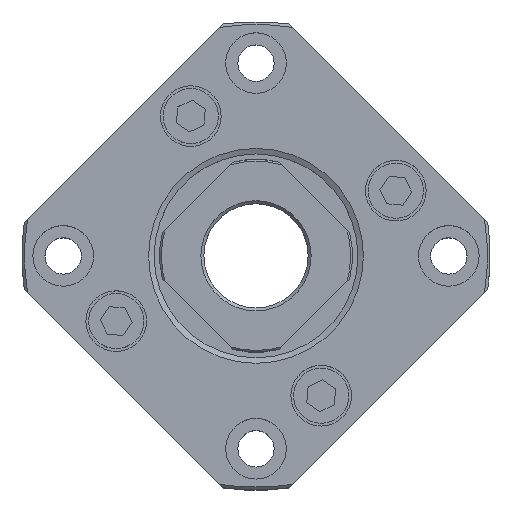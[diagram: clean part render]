
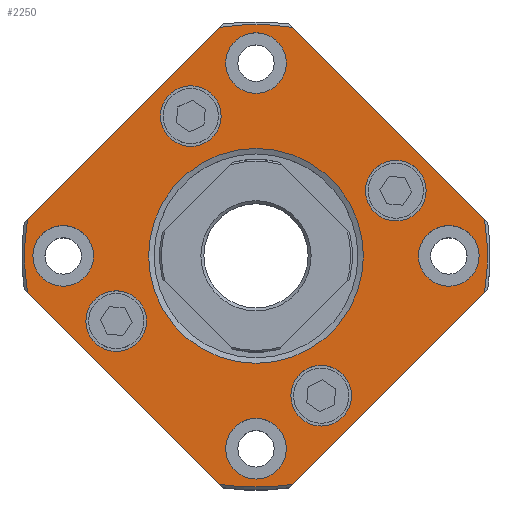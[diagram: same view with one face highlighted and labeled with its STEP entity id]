
A CAD part, top view. The second image highlights one B-rep face of the part: STEP entity #2250.
In plain terms, the highlighted planar face has unit normal (0, 0, 1) as drawn and (-1, 0, 0) by its records, which use the part's own axes.
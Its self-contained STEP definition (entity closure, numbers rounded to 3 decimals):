
#170=LINE('',#3469,#324);
#174=LINE('',#3488,#328);
#178=LINE('',#3507,#332);
#182=LINE('',#3526,#336);
#324=VECTOR('',#2750,1000.);
#328=VECTOR('',#2756,1000.);
#332=VECTOR('',#2762,1000.);
#336=VECTOR('',#2768,1000.);
#506=ORIENTED_EDGE('',*,*,#1110,.T.);
#507=ORIENTED_EDGE('',*,*,#1111,.T.);
#508=ORIENTED_EDGE('',*,*,#1112,.T.);
#509=ORIENTED_EDGE('',*,*,#1113,.T.);
#510=ORIENTED_EDGE('',*,*,#1114,.T.);
#511=ORIENTED_EDGE('',*,*,#1115,.T.);
#512=ORIENTED_EDGE('',*,*,#1116,.T.);
#513=ORIENTED_EDGE('',*,*,#1117,.T.);
#514=ORIENTED_EDGE('',*,*,#1118,.T.);
#515=ORIENTED_EDGE('',*,*,#1107,.F.);
#516=ORIENTED_EDGE('',*,*,#1119,.F.);
#517=ORIENTED_EDGE('',*,*,#1101,.F.);
#518=ORIENTED_EDGE('',*,*,#1120,.F.);
#519=ORIENTED_EDGE('',*,*,#1095,.F.);
#520=ORIENTED_EDGE('',*,*,#1121,.F.);
#521=ORIENTED_EDGE('',*,*,#1089,.F.);
#522=ORIENTED_EDGE('',*,*,#1122,.F.);
#1089=EDGE_CURVE('',#1391,#1392,#170,.T.);
#1095=EDGE_CURVE('',#1397,#1398,#174,.T.);
#1101=EDGE_CURVE('',#1403,#1404,#178,.T.);
#1107=EDGE_CURVE('',#1409,#1410,#182,.T.);
#1110=EDGE_CURVE('',#1412,#1412,#1588,.T.);
#1111=EDGE_CURVE('',#1413,#1413,#1589,.T.);
#1112=EDGE_CURVE('',#1414,#1414,#1590,.T.);
#1113=EDGE_CURVE('',#1415,#1415,#1591,.T.);
#1114=EDGE_CURVE('',#1416,#1416,#1592,.T.);
#1115=EDGE_CURVE('',#1417,#1417,#1593,.T.);
#1116=EDGE_CURVE('',#1418,#1418,#1594,.T.);
#1117=EDGE_CURVE('',#1419,#1419,#1595,.T.);
#1118=EDGE_CURVE('',#1420,#1420,#1596,.T.);
#1119=EDGE_CURVE('',#1404,#1409,#1597,.T.);
#1120=EDGE_CURVE('',#1398,#1403,#1598,.T.);
#1121=EDGE_CURVE('',#1392,#1397,#1599,.T.);
#1122=EDGE_CURVE('',#1410,#1391,#1600,.T.);
#1391=VERTEX_POINT('',#3468);
#1392=VERTEX_POINT('',#3470);
#1397=VERTEX_POINT('',#3487);
#1398=VERTEX_POINT('',#3489);
#1403=VERTEX_POINT('',#3506);
#1404=VERTEX_POINT('',#3508);
#1409=VERTEX_POINT('',#3525);
#1410=VERTEX_POINT('',#3527);
#1412=VERTEX_POINT('',#3536);
#1413=VERTEX_POINT('',#3538);
#1414=VERTEX_POINT('',#3540);
#1415=VERTEX_POINT('',#3542);
#1416=VERTEX_POINT('',#3544);
#1417=VERTEX_POINT('',#3546);
#1418=VERTEX_POINT('',#3548);
#1419=VERTEX_POINT('',#3550);
#1420=VERTEX_POINT('',#3552);
#1588=CIRCLE('',#2445,5.5);
#1589=CIRCLE('',#2446,5.5);
#1590=CIRCLE('',#2447,5.5);
#1591=CIRCLE('',#2448,5.5);
#1592=CIRCLE('',#2449,5.5);
#1593=CIRCLE('',#2450,5.5);
#1594=CIRCLE('',#2451,5.5);
#1595=CIRCLE('',#2452,5.5);
#1596=CIRCLE('',#2453,19.5);
#1597=CIRCLE('',#2454,42.);
#1598=CIRCLE('',#2455,42.);
#1599=CIRCLE('',#2456,42.);
#1600=CIRCLE('',#2457,42.);
#1710=EDGE_LOOP('',(#506));
#1711=EDGE_LOOP('',(#507));
#1712=EDGE_LOOP('',(#508));
#1713=EDGE_LOOP('',(#509));
#1714=EDGE_LOOP('',(#510));
#1715=EDGE_LOOP('',(#511));
#1716=EDGE_LOOP('',(#512));
#1717=EDGE_LOOP('',(#513));
#1718=EDGE_LOOP('',(#514));
#1719=EDGE_LOOP('',(#515,#516,#517,#518,#519,#520,#521,#522));
#1942=FACE_BOUND('',#1710,.T.);
#1943=FACE_BOUND('',#1711,.T.);
#1944=FACE_BOUND('',#1712,.T.);
#1945=FACE_BOUND('',#1713,.T.);
#1946=FACE_BOUND('',#1714,.T.);
#1947=FACE_BOUND('',#1715,.T.);
#1948=FACE_BOUND('',#1716,.T.);
#1949=FACE_BOUND('',#1717,.T.);
#1950=FACE_BOUND('',#1718,.T.);
#1951=FACE_BOUND('',#1719,.T.);
#2169=PLANE('',#2444);
#2250=ADVANCED_FACE('',(#1942,#1943,#1944,#1945,#1946,#1947,#1948,#1949,
#1950,#1951),#2169,.F.);
#2444=AXIS2_PLACEMENT_3D('',#3534,#2770,#2771);
#2445=AXIS2_PLACEMENT_3D('',#3535,#2772,#2773);
#2446=AXIS2_PLACEMENT_3D('',#3537,#2774,#2775);
#2447=AXIS2_PLACEMENT_3D('',#3539,#2776,#2777);
#2448=AXIS2_PLACEMENT_3D('',#3541,#2778,#2779);
#2449=AXIS2_PLACEMENT_3D('',#3543,#2780,#2781);
#2450=AXIS2_PLACEMENT_3D('',#3545,#2782,#2783);
#2451=AXIS2_PLACEMENT_3D('',#3547,#2784,#2785);
#2452=AXIS2_PLACEMENT_3D('',#3549,#2786,#2787);
#2453=AXIS2_PLACEMENT_3D('',#3551,#2788,#2789);
#2454=AXIS2_PLACEMENT_3D('',#3553,#2790,#2791);
#2455=AXIS2_PLACEMENT_3D('',#3554,#2792,#2793);
#2456=AXIS2_PLACEMENT_3D('',#3555,#2794,#2795);
#2457=AXIS2_PLACEMENT_3D('',#3556,#2796,#2797);
#2750=DIRECTION('',(0.,-0.707,-0.707));
#2756=DIRECTION('',(0.,0.707,-0.707));
#2762=DIRECTION('',(0.,0.707,0.707));
#2768=DIRECTION('',(0.,-0.707,0.707));
#2770=DIRECTION('',(1.,0.,0.));
#2771=DIRECTION('',(0.,0.,-1.));
#2772=DIRECTION('',(1.,0.,0.));
#2773=DIRECTION('',(0.,0.,-1.));
#2774=DIRECTION('',(1.,0.,0.));
#2775=DIRECTION('',(0.,0.,-1.));
#2776=DIRECTION('',(1.,0.,0.));
#2777=DIRECTION('',(0.,0.,-1.));
#2778=DIRECTION('',(1.,0.,0.));
#2779=DIRECTION('',(0.,0.,-1.));
#2780=DIRECTION('',(1.,0.,0.));
#2781=DIRECTION('',(0.,0.,-1.));
#2782=DIRECTION('',(1.,0.,0.));
#2783=DIRECTION('',(0.,0.,-1.));
#2784=DIRECTION('',(1.,0.,0.));
#2785=DIRECTION('',(0.,0.,-1.));
#2786=DIRECTION('',(1.,0.,0.));
#2787=DIRECTION('',(0.,0.,-1.));
#2788=DIRECTION('',(1.,0.,0.));
#2789=DIRECTION('',(0.,0.,-1.));
#2790=DIRECTION('',(1.,0.,0.));
#2791=DIRECTION('',(0.,0.,-1.));
#2792=DIRECTION('',(1.,0.,0.));
#2793=DIRECTION('',(0.,0.,-1.));
#2794=DIRECTION('',(1.,0.,0.));
#2795=DIRECTION('',(0.,0.,-1.));
#2796=DIRECTION('',(1.,0.,0.));
#2797=DIRECTION('',(0.,0.,-1.));
#3468=CARTESIAN_POINT('',(-22.,-6.606,41.477));
#3469=CARTESIAN_POINT('',(-22.,0.,48.083));
#3470=CARTESIAN_POINT('',(-22.,-41.477,6.606));
#3487=CARTESIAN_POINT('',(-22.,-41.477,-6.606));
#3488=CARTESIAN_POINT('',(-22.,-48.083,0.));
#3489=CARTESIAN_POINT('',(-22.,-6.606,-41.477));
#3506=CARTESIAN_POINT('',(-22.,6.606,-41.477));
#3507=CARTESIAN_POINT('',(-22.,0.,-48.083));
#3508=CARTESIAN_POINT('',(-22.,41.477,-6.606));
#3525=CARTESIAN_POINT('',(-22.,41.477,6.606));
#3526=CARTESIAN_POINT('',(-22.,48.083,0.));
#3527=CARTESIAN_POINT('',(-22.,6.606,41.477));
#3534=CARTESIAN_POINT('',(-22.,18.5,0.));
#3535=CARTESIAN_POINT('',(-22.,-11.833,-25.377));
#3536=CARTESIAN_POINT('',(-22.,-11.833,-30.877));
#3537=CARTESIAN_POINT('',(-22.,11.833,25.377));
#3538=CARTESIAN_POINT('',(-22.,11.833,19.877));
#3539=CARTESIAN_POINT('',(-22.,-25.377,11.833));
#3540=CARTESIAN_POINT('',(-22.,-25.377,6.333));
#3541=CARTESIAN_POINT('',(-22.,25.377,-11.833));
#3542=CARTESIAN_POINT('',(-22.,25.377,-17.333));
#3543=CARTESIAN_POINT('',(-22.,0.,35.));
#3544=CARTESIAN_POINT('',(-22.,0.,29.5));
#3545=CARTESIAN_POINT('',(-22.,-35.,0.));
#3546=CARTESIAN_POINT('',(-22.,-35.,-5.5));
#3547=CARTESIAN_POINT('',(-22.,0.,-35.));
#3548=CARTESIAN_POINT('',(-22.,0.,-40.5));
#3549=CARTESIAN_POINT('',(-22.,35.,0.));
#3550=CARTESIAN_POINT('',(-22.,35.,-5.5));
#3551=CARTESIAN_POINT('',(-22.,0.,0.));
#3552=CARTESIAN_POINT('',(-22.,0.,-19.5));
#3553=CARTESIAN_POINT('',(-22.,0.,0.));
#3554=CARTESIAN_POINT('',(-22.,0.,0.));
#3555=CARTESIAN_POINT('',(-22.,0.,0.));
#3556=CARTESIAN_POINT('',(-22.,0.,0.));
